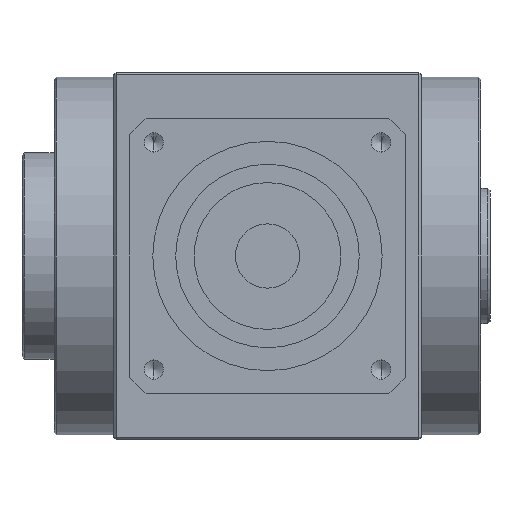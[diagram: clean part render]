
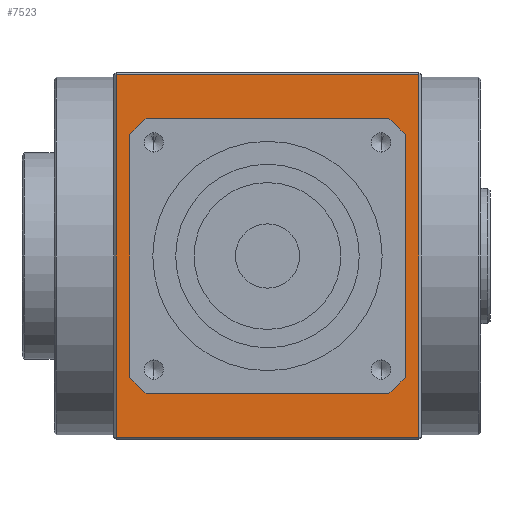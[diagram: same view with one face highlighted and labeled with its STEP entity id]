
A CAD part, front view. The second image highlights one B-rep face of the part: STEP entity #7523.
In plain terms, the highlighted planar face has unit normal (0, -1, 0).
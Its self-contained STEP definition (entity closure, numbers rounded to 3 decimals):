
#65 = CARTESIAN_POINT ( 'NONE',  ( 0., -40., 16.447 ) ) ;
#114 = DIRECTION ( 'NONE',  ( 0., 0., -1. ) ) ;
#127 = DIRECTION ( 'NONE',  ( 0., -1., 0. ) ) ;
#130 = CARTESIAN_POINT ( 'NONE',  ( 0., -40., 0. ) ) ;
#308 = ORIENTED_EDGE ( 'NONE', *, *, #819, .F. ) ;
#819 = EDGE_CURVE ( 'NONE', #7247, #5471, #5082, .T. ) ;
#837 = EDGE_CURVE ( 'NONE', #5989, #10357, #5093, .T. ) ;
#854 = EDGE_CURVE ( 'NONE', #5471, #5989, #5084, .T. ) ;
#879 = VECTOR ( 'NONE', #8543, 1000. ) ;
#958 = FACE_BOUND ( 'NONE', #6978, .T. ) ;
#1010 = EDGE_CURVE ( 'NONE', #8869, #6455, #1161, .T. ) ;
#1083 = EDGE_CURVE ( 'NONE', #10357, #7247, #7775, .T. ) ;
#1161 = CIRCLE ( 'NONE', #10666, 16.447 ) ;
#1281 = CARTESIAN_POINT ( 'NONE',  ( 33.5, -40., 40. ) ) ;
#1587 = VECTOR ( 'NONE', #8724, 1000. ) ;
#1853 = ORIENTED_EDGE ( 'NONE', *, *, #6430, .F. ) ;
#2267 = EDGE_LOOP ( 'NONE', ( #4823, #5419, #308, #4553 ) ) ;
#2422 = AXIS2_PLACEMENT_3D ( 'NONE', #130, #127, #114 ) ;
#2889 = CARTESIAN_POINT ( 'NONE',  ( 33., -40., -39.5 ) ) ;
#3773 = FACE_OUTER_BOUND ( 'NONE', #2267, .T. ) ;
#4553 = ORIENTED_EDGE ( 'NONE', *, *, #1083, .F. ) ;
#4823 = ORIENTED_EDGE ( 'NONE', *, *, #837, .F. ) ;
#5082 = LINE ( 'NONE', #8584, #1587 ) ;
#5084 = LINE ( 'NONE', #8473, #879 ) ;
#5093 = LINE ( 'NONE', #8541, #10513 ) ;
#5149 = ORIENTED_EDGE ( 'NONE', *, *, #1010, .F. ) ;
#5419 = ORIENTED_EDGE ( 'NONE', *, *, #854, .F. ) ;
#5449 = DIRECTION ( 'NONE',  ( 0., 0., 1. ) ) ;
#5471 = VERTEX_POINT ( 'NONE', #7027 ) ;
#5989 = VERTEX_POINT ( 'NONE', #2889 ) ;
#6430 = EDGE_CURVE ( 'NONE', #6455, #8869, #8952, .T. ) ;
#6455 = VERTEX_POINT ( 'NONE', #65 ) ;
#6647 = DIRECTION ( 'NONE',  ( 0., 0., 1. ) ) ;
#6802 = CARTESIAN_POINT ( 'NONE',  ( -33., -40., 40. ) ) ;
#6978 = EDGE_LOOP ( 'NONE', ( #5149, #1853 ) ) ;
#6988 = DIRECTION ( 'NONE',  ( 0., 1., 0. ) ) ;
#7027 = CARTESIAN_POINT ( 'NONE',  ( 33., -40., 39.5 ) ) ;
#7066 = DIRECTION ( 'NONE',  ( 0., 0., -1. ) ) ;
#7081 = DIRECTION ( 'NONE',  ( 0., -1., 0. ) ) ;
#7103 = CARTESIAN_POINT ( 'NONE',  ( 0., -40., 0. ) ) ;
#7247 = VERTEX_POINT ( 'NONE', #9573 ) ;
#7523 = ADVANCED_FACE ( 'NONE', ( #958, #3773 ), #8476, .F. ) ;
#7775 = LINE ( 'NONE', #6802, #7811 ) ;
#7811 = VECTOR ( 'NONE', #6647, 1000. ) ;
#8277 = CARTESIAN_POINT ( 'NONE',  ( -33., -40., -39.5 ) ) ;
#8473 = CARTESIAN_POINT ( 'NONE',  ( 33., -40., 40. ) ) ;
#8476 = PLANE ( 'NONE',  #9405 ) ;
#8515 = DIRECTION ( 'NONE',  ( -1., 0., 0. ) ) ;
#8541 = CARTESIAN_POINT ( 'NONE',  ( 33.5, -40., -39.5 ) ) ;
#8543 = DIRECTION ( 'NONE',  ( 0., 0., -1. ) ) ;
#8584 = CARTESIAN_POINT ( 'NONE',  ( 33.5, -40., 39.5 ) ) ;
#8724 = DIRECTION ( 'NONE',  ( 1., 0., 0. ) ) ;
#8869 = VERTEX_POINT ( 'NONE', #9284 ) ;
#8952 = CIRCLE ( 'NONE', #2422, 16.447 ) ;
#9284 = CARTESIAN_POINT ( 'NONE',  ( 0., -40., -16.447 ) ) ;
#9405 = AXIS2_PLACEMENT_3D ( 'NONE', #1281, #6988, #5449 ) ;
#9573 = CARTESIAN_POINT ( 'NONE',  ( -33., -40., 39.5 ) ) ;
#10357 = VERTEX_POINT ( 'NONE', #8277 ) ;
#10513 = VECTOR ( 'NONE', #8515, 1000. ) ;
#10666 = AXIS2_PLACEMENT_3D ( 'NONE', #7103, #7081, #7066 ) ;
